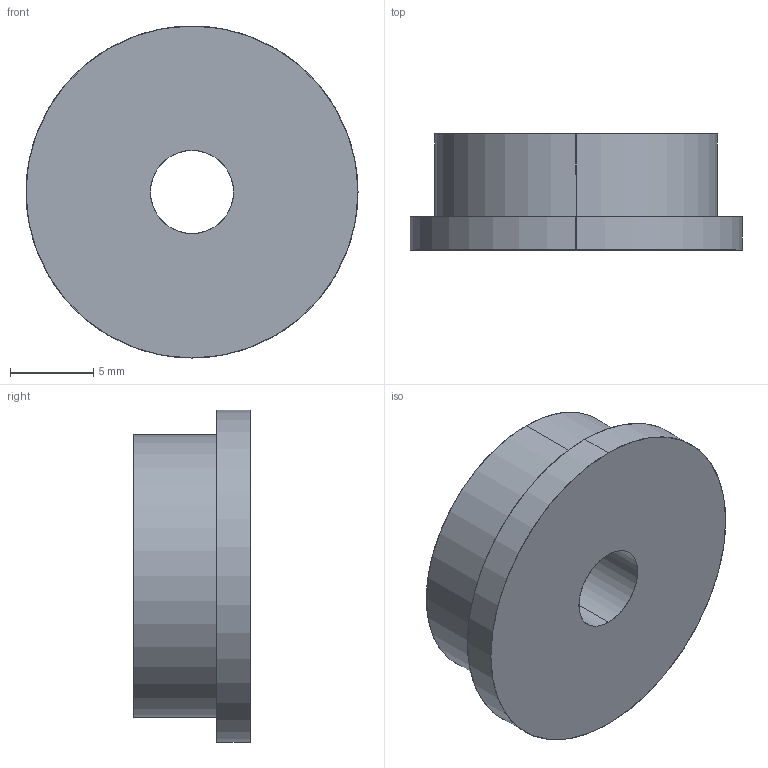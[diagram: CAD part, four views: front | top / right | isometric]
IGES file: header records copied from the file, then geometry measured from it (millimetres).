
Start section: SolidWorks IGES file using analytic representation for surfaces
Global section: file name: E:\Studium\I4.0\fts\Kleine Bauteile\rad-halb-1.IGS; native system: SolidWorks 2013; preprocessor: SolidWorks 2013; author: Ludwig Jiawei Luo; date: 180202.213823; units: millimetre
Bounding box: 20 x 7 x 20 mm (x, y, z)
Surface area: 1196.8 mm2 (no closed solid volume)
Topology: 0 solids, 0 shells, 24 faces, 324 edges, 324 vertices
Faces by surface type: revolution 12, bspline 12
